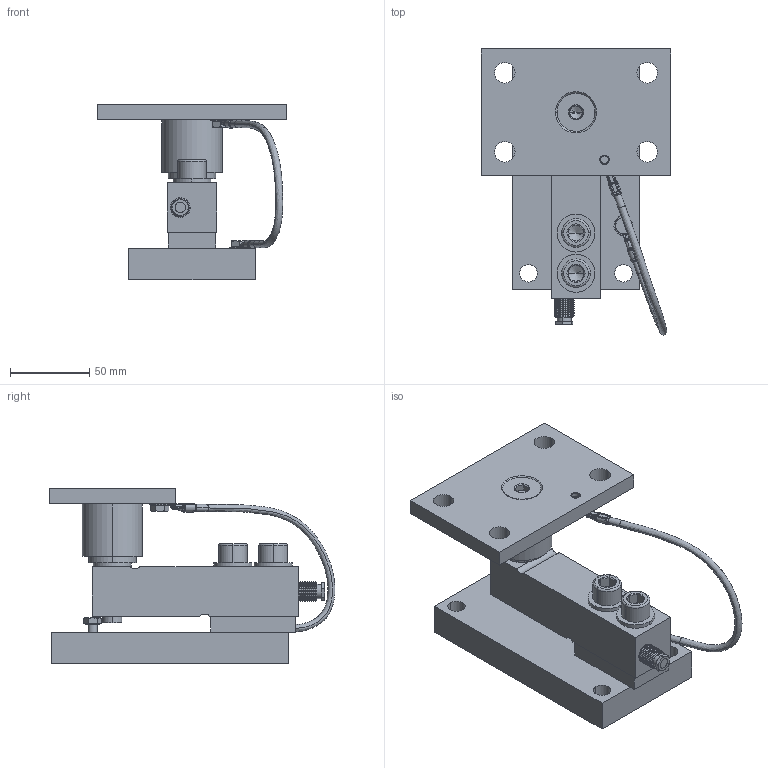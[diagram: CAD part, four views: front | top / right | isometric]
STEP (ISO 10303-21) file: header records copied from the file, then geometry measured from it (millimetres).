
FILE_DESCRIPTION((''),'1');
FILE_NAME('LMLAS_2000_kg.step','2020-05-25T10:44:33',(''),(''),'','','');
FILE_SCHEMA(('AUTOMOTIVE_DESIGN { 1 0 10303 214 1 1 1 1 }'));
Products named in the file (22): LMLAS 2000_kg; LMLAS part 03; LMLAS part 04; LMLAS part 06; LMLAS cable 01; LMLAS part 07; LMLAS cable 02; LMLAS screw 01; LMLAS screw 02; LMLAS part 08; LMLAS part 09; LMLAS part 10; LMLAS part 12; LMLAS part 13; LMLAS screw 03; LMLAS screw 04; LMLAS load cell 01; LMLAS part 14; LMLAS screw 05; LMLAS part 15
Assembly tree (28 placements, depth 4):
  LMLAS 2000_kg
    LMLAS 2000_kg
    LMLAS part 07
      LMLAS part 03
        LMLAS part 04
        LMLAS part 06
        LMLAS cable 01
      LMLAS cable 02
      LMLAS part 03
        LMLAS part 04
        LMLAS part 06
        LMLAS cable 01
    LMLAS screw 01
    LMLAS screw 02  x2
    LMLAS part 08
    LMLAS part 13
      LMLAS part 09
        LMLAS part 10
        LMLAS part 12
    LMLAS screw 03  x2
    LMLAS screw 04  x3
    LMLAS load cell 01
    LMLAS part 14
    LMLAS screw 05
    LMLAS part 15
Bounding box: 120 x 180.62 x 111 mm (x, y, z)
Volume: 512504.2 mm3; surface area: 131547.5 mm2
Topology: 23 solids, 30 shells, 697 faces, 1684 edges, 1043 vertices
Faces by surface type: cylinder 214, plane 207, cone 136, bspline 76, torus 60, extrusion 4
Entity records: 21495 total; most frequent: CARTESIAN_POINT 9444, DIRECTION 2521, ORIENTED_EDGE 2276, EDGE_CURVE 1152, AXIS2_PLACEMENT_3D 1037, VERTEX_POINT 716, EDGE_LOOP 556, CIRCLE 554
